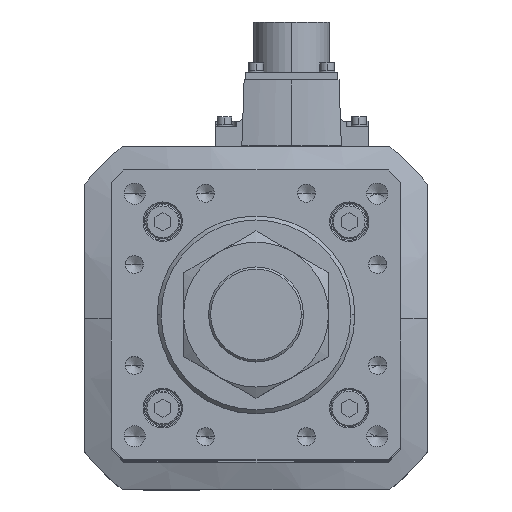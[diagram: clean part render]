
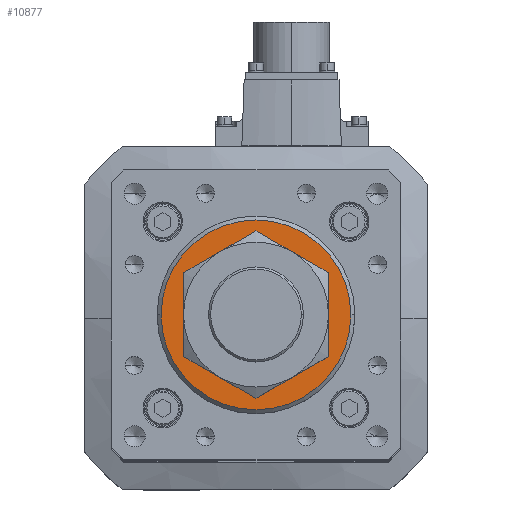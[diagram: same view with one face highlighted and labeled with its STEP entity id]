
A CAD part, top view. The second image highlights one B-rep face of the part: STEP entity #10877.
In plain terms, the highlighted planar face has unit normal (0, 0, 1).
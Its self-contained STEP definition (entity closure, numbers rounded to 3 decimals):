
#57 = FACE_BOUND ( 'NONE', #21164, .T. ) ;
#269 = ORIENTED_EDGE ( 'NONE', *, *, #17467, .T. ) ;
#283 = CARTESIAN_POINT ( 'NONE',  ( 0., 0., 446. ) ) ;
#673 = DIRECTION ( 'NONE',  ( 0., 0., 1. ) ) ;
#3344 = AXIS2_PLACEMENT_3D ( 'NONE', #18493, #673, #15045 ) ;
#4655 = EDGE_CURVE ( 'NONE', #21180, #14154, #26862, .T. ) ;
#8084 = AXIS2_PLACEMENT_3D ( 'NONE', #9116, #15259, #35597 ) ;
#8410 = PLANE ( 'NONE',  #32371 ) ;
#8496 = CIRCLE ( 'NONE', #23183, 36. ) ;
#8807 = AXIS2_PLACEMENT_3D ( 'NONE', #26025, #34200, #17147 ) ;
#9104 = CARTESIAN_POINT ( 'NONE',  ( -23., 0., 446. ) ) ;
#9116 = CARTESIAN_POINT ( 'NONE',  ( 0., 0., 446. ) ) ;
#9883 = CARTESIAN_POINT ( 'NONE',  ( -36., 0., 446. ) ) ;
#10877 = ADVANCED_FACE ( 'NONE', ( #57, #14639 ), #8410, .T. ) ;
#14154 = VERTEX_POINT ( 'NONE', #34278 ) ;
#14156 = DIRECTION ( 'NONE',  ( 1., 0., 0. ) ) ;
#14639 = FACE_OUTER_BOUND ( 'NONE', #33710, .T. ) ;
#15045 = DIRECTION ( 'NONE',  ( 1., 0., 0. ) ) ;
#15259 = DIRECTION ( 'NONE',  ( 0., 0., -1. ) ) ;
#16215 = CIRCLE ( 'NONE', #8807, 23. ) ;
#17147 = DIRECTION ( 'NONE',  ( 1., 0., 0. ) ) ;
#17467 = EDGE_CURVE ( 'NONE', #14154, #21180, #8496, .T. ) ;
#17980 = DIRECTION ( 'NONE',  ( 0., 0., 1. ) ) ;
#18493 = CARTESIAN_POINT ( 'NONE',  ( 0., 0., 446. ) ) ;
#18508 = CIRCLE ( 'NONE', #8084, 23. ) ;
#19898 = DIRECTION ( 'NONE',  ( 1., 0., 0. ) ) ;
#21164 = EDGE_LOOP ( 'NONE', ( #26001, #21169 ) ) ;
#21169 = ORIENTED_EDGE ( 'NONE', *, *, #25394, .T. ) ;
#21180 = VERTEX_POINT ( 'NONE', #9883 ) ;
#22701 = VERTEX_POINT ( 'NONE', #9104 ) ;
#22781 = CARTESIAN_POINT ( 'NONE',  ( 0., 0., 446. ) ) ;
#23183 = AXIS2_PLACEMENT_3D ( 'NONE', #283, #17980, #19898 ) ;
#23946 = ORIENTED_EDGE ( 'NONE', *, *, #4655, .T. ) ;
#24388 = CARTESIAN_POINT ( 'NONE',  ( 23., 0., 446. ) ) ;
#25394 = EDGE_CURVE ( 'NONE', #22701, #31615, #18508, .T. ) ;
#25717 = EDGE_CURVE ( 'NONE', #31615, #22701, #16215, .T. ) ;
#26001 = ORIENTED_EDGE ( 'NONE', *, *, #25717, .T. ) ;
#26025 = CARTESIAN_POINT ( 'NONE',  ( 0., 0., 446. ) ) ;
#26862 = CIRCLE ( 'NONE', #3344, 36. ) ;
#31615 = VERTEX_POINT ( 'NONE', #24388 ) ;
#32371 = AXIS2_PLACEMENT_3D ( 'NONE', #22781, #34391, #14156 ) ;
#33710 = EDGE_LOOP ( 'NONE', ( #23946, #269 ) ) ;
#34200 = DIRECTION ( 'NONE',  ( 0., 0., -1. ) ) ;
#34278 = CARTESIAN_POINT ( 'NONE',  ( 36., 0., 446. ) ) ;
#34391 = DIRECTION ( 'NONE',  ( 0., 0., 1. ) ) ;
#35597 = DIRECTION ( 'NONE',  ( 1., 0., 0. ) ) ;
